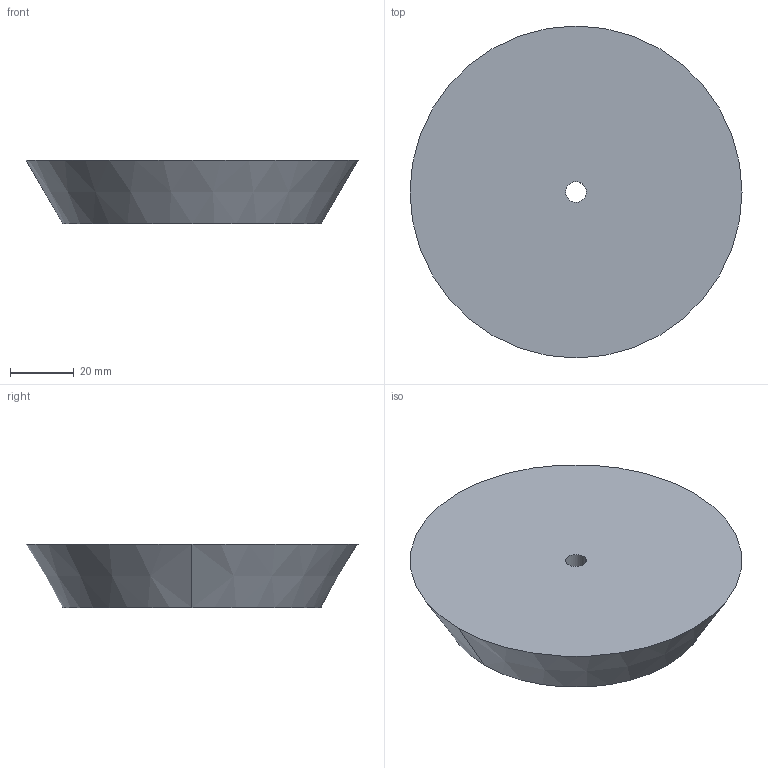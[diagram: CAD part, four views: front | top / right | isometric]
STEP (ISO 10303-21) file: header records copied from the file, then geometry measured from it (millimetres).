
FILE_DESCRIPTION(('CATIA V5 STEP Exchange'),'2;1');
FILE_NAME('C:\Users\andres.garcia\OneDrive - IQS\ASIGNATURAS\DAO\Controles\2223\c0\c1-ALSINA_Claudia-tapon.stp','2023-02-03T08:22:02+00:00',('none'),('none'),'CATIA Version 5-6 Release 2013 SP6','CATIA V5 STEP AP203','none');
FILE_SCHEMA(('CONFIG_CONTROL_DESIGN'));
Length unit declared in the file: millimetre
Products named in the file (1): c1-ALSINA_Claudia-tapon
Bounding box: 104 x 104 x 20 mm (x, y, z)
Volume: 134299.2 mm3; surface area: 20685.6 mm2
Topology: 1 solids, 1 shells, 6 faces, 12 edges, 8 vertices
Faces by surface type: cylinder 2, plane 2, cone 2
Entity records: 196 total; most frequent: CARTESIAN_POINT 26, ORIENTED_EDGE 24, DIRECTION 22, AXIS2_PLACEMENT_3D 14, EDGE_CURVE 12, CIRCLE 8, EDGE_LOOP 8, VERTEX_POINT 8
